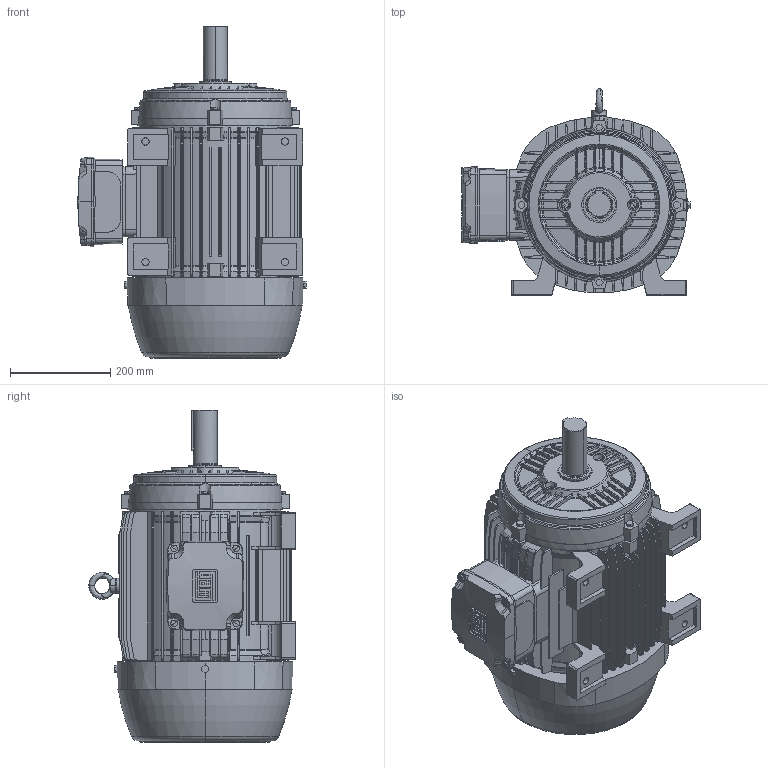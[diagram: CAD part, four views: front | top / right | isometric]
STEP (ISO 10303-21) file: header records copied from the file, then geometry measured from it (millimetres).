
FILE_DESCRIPTION (( 'STEP AP203' ), '1' );
FILE_NAME ('180M_LEFT.STEP', '2007-06-28T16:33:29', ( '' ), ( '' ), 'SwSTEP 2.0', 'SolidWorks 2006104', '' );
FILE_SCHEMA (( 'CONFIG_CONTROL_DESIGN' ));
Length unit declared in the file: millimetre
Products named in the file (1): 180M_LEFT
Bounding box: 456 x 412.48 x 663.6 mm (x, y, z)
Volume: 46100016.2 mm3; surface area: 1627419.6 mm2
Topology: 1 solids, 1 shells, 1817 faces, 5171 edges, 3388 vertices
Faces by surface type: plane 891, cylinder 356, torus 238, cone 237, bspline 64, sphere 31
Entity records: 67681 total; most frequent: CARTESIAN_POINT 21706, ORIENTED_EDGE 10334, DIRECTION 8983, EDGE_CURVE 5167, VERTEX_POINT 3388, AXIS2_PLACEMENT_3D 3300, VECTOR 2383, LINE 2383
